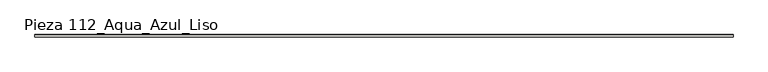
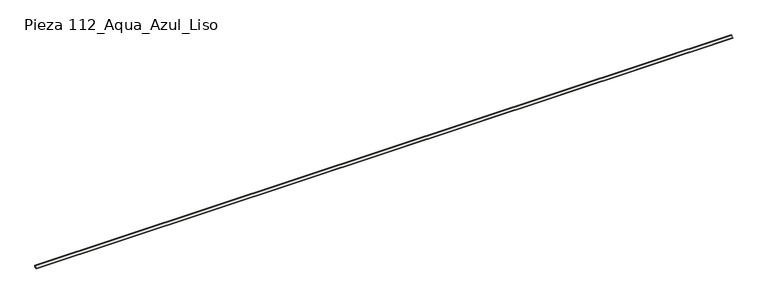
"""IFC4 building model written with IfcOpenShell, lengths in millimetres: slab geometry, ROSA GRES_112 : Pieza 112_Aqua_Azul_Liso."""

from ifc_helpers import new_model, si_unit, point, frame, frame_2d, origin, place, context, project, spatial, polyline, circle_curve, trimmed, segment, composite_curve, outline, extrude, source, transform, mapped, element, save


def pieza_112_aqua_azul_liso_90a9ab43(model_context):
    return source(origin(), model_context, "Body", "SweptSolid", [
        extrude(outline(composite_curve([segment(polyline([(0.0, 8.7114978), (-8.7114978, 0.0), (-40.0, 0.0), (-40.0, 9.9734114)]), True, "CONTINUOUS"), segment(trimmed(circle_curve(frame_2d((-39.9955547, 39.9955547)), 30.0221435), [point((-40.0, 9.9734114))], [point((-9.9734114, 40.0))], True, "CARTESIAN"), True, "CONTINUOUS"), segment(polyline([(-9.9734114, 40.0), (0.0, 40.0), (0.0, 8.7114978)]), True, "CONTINUOUS")], self_intersect=False)), frame((0.0, 0.0, 0.0), z_axis=(1.0, 0.0, 0.0), x_axis=(0.0, 1.0, 0.0)), (0.0, 0.0, 1.0), 12250.0),
    ])


if __name__ == "__main__":
    model = new_model("IFC4")
    model_context = context("Model", 3, world=origin())
    ifc_project = project(units=[si_unit("LENGTHUNIT", "METRE", prefix="MILLI")], contexts=[model_context])
    site = spatial("IfcSite", under=ifc_project)
    building = spatial("IfcBuilding", under=site)
    placement = place(None, origin())
    pieza_112_aqua_azul_liso_shape = pieza_112_aqua_azul_liso_90a9ab43(model_context)
    element("IfcSlab", 1, ObjectType="ROSA GRES_112 : Pieza 112_Aqua_Azul_Liso", at=placement, inside=building, context=model_context, shape_type="MappedRepresentation", body=[
        mapped(pieza_112_aqua_azul_liso_shape, transform((0.0, 0.0, 0.0), x_axis=(1.0, 0.0, 0.0), y_axis=(0.0, 1.0, 0.0), z_axis=(0.0, 0.0, 1.0))),
    ])
    save(model, "model.ifc")
